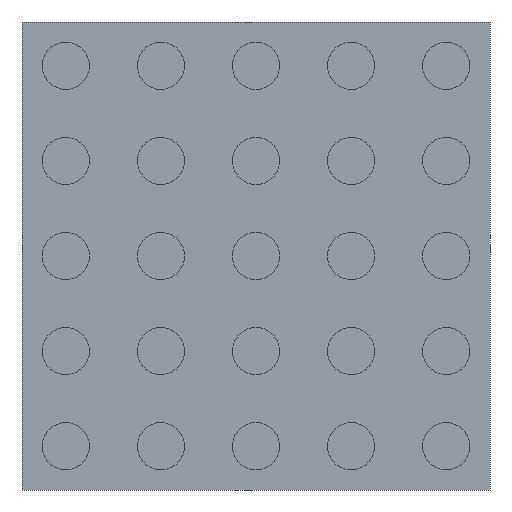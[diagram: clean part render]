
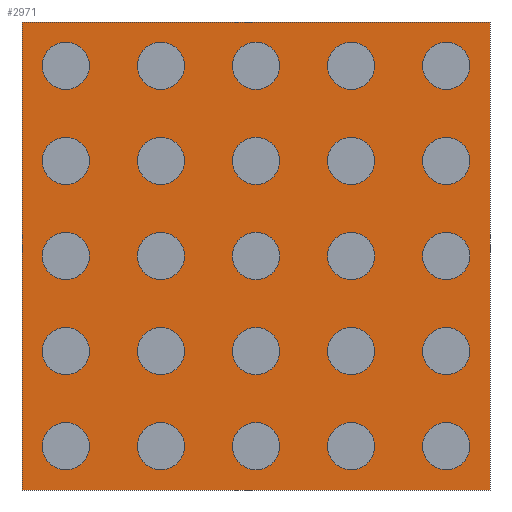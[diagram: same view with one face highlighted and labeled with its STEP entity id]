
A CAD part, front view. The second image highlights one B-rep face of the part: STEP entity #2971.
In plain terms, the highlighted planar face has unit normal (0, -1, 0).
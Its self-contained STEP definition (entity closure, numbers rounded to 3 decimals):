
#2814 = CARTESIAN_POINT ( 'NONE',  ( -3.125, 0.05, -3.125 ) ) ;
#2815 = VERTEX_POINT ( 'NONE', #2814 ) ;
#2816 = CARTESIAN_POINT ( 'NONE',  ( -3.125, 0.05, 3.125 ) ) ;
#2817 = VERTEX_POINT ( 'NONE', #2816 ) ;
#2818 = CARTESIAN_POINT ( 'NONE',  ( -3.125, 0.05, 3.125 ) ) ;
#2819 = DIRECTION ( 'NONE',  ( 0., 0., 1. ) ) ;
#2820 = VECTOR ( 'NONE', #2819, 1000. ) ;
#2821 = LINE ( 'NONE', #2818, #2820 ) ;
#2822 = EDGE_CURVE ( 'NONE', #2815, #2817, #2821, .T. ) ;
#2854 = CARTESIAN_POINT ( 'NONE',  ( 3.125, 0.05, 3.125 ) ) ;
#2855 = VERTEX_POINT ( 'NONE', #2854 ) ;
#2856 = CARTESIAN_POINT ( 'NONE',  ( 3.125, 0.05, 3.125 ) ) ;
#2857 = DIRECTION ( 'NONE',  ( 1., 0., 0. ) ) ;
#2858 = VECTOR ( 'NONE', #2857, 1000. ) ;
#2859 = LINE ( 'NONE', #2856, #2858 ) ;
#2860 = EDGE_CURVE ( 'NONE', #2817, #2855, #2859, .T. ) ;
#2885 = CARTESIAN_POINT ( 'NONE',  ( 3.125, 0.05, -3.125 ) ) ;
#2886 = VERTEX_POINT ( 'NONE', #2885 ) ;
#2887 = CARTESIAN_POINT ( 'NONE',  ( 3.125, 0.05, 3.125 ) ) ;
#2888 = DIRECTION ( 'NONE',  ( 0., 0., -1. ) ) ;
#2889 = VECTOR ( 'NONE', #2888, 1000. ) ;
#2890 = LINE ( 'NONE', #2887, #2889 ) ;
#2891 = EDGE_CURVE ( 'NONE', #2855, #2886, #2890, .T. ) ;
#2916 = CARTESIAN_POINT ( 'NONE',  ( 3.125, 0.05, -3.125 ) ) ;
#2917 = DIRECTION ( 'NONE',  ( -1., 0., 0. ) ) ;
#2918 = VECTOR ( 'NONE', #2917, 1000. ) ;
#2919 = LINE ( 'NONE', #2916, #2918 ) ;
#2920 = EDGE_CURVE ( 'NONE', #2886, #2815, #2919, .T. ) ;
#2960 = ORIENTED_EDGE ( 'NONE', *, *, #2822, .F. ) ;
#2961 = ORIENTED_EDGE ( 'NONE', *, *, #2920, .F. ) ;
#2962 = ORIENTED_EDGE ( 'NONE', *, *, #2891, .F. ) ;
#2963 = ORIENTED_EDGE ( 'NONE', *, *, #2860, .F. ) ;
#2964 = EDGE_LOOP ( 'NONE', ( #2960, #2961, #2962, #2963 ) ) ;
#2965 = FACE_OUTER_BOUND ( 'NONE', #2964, .T. ) ;
#2966 = CARTESIAN_POINT ( 'NONE',  ( 0., 0.05, 0. ) ) ;
#2967 = DIRECTION ( 'NONE',  ( 0., 1., 0. ) ) ;
#2968 = DIRECTION ( 'NONE',  ( 0., 0., 1. ) ) ;
#2969 = AXIS2_PLACEMENT_3D ( 'NONE', #2966, #2967, #2968 ) ;
#2970 = PLANE ( 'NONE', #2969 ) ;
#2971 = ADVANCED_FACE ( 'NONE', ( #2965 ), #2970, .F. ) ;
